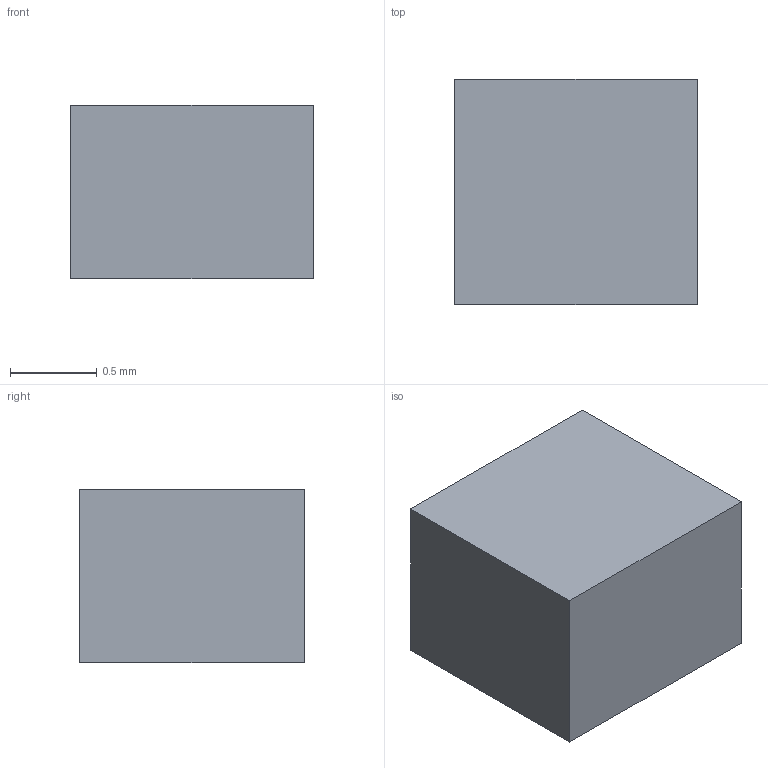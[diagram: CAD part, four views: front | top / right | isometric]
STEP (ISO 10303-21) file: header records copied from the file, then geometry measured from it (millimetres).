
FILE_DESCRIPTION(/* description */ ('STEP AP242 Edition 2','CAx-IF Rec.Pracs.---Representation and Presentation of Product Manufacturing Information (PMI)---4.0---2014-10-13','CAx-IF Rec.Pracs.---3D Tessellated Geometry---0.4---2014-09-14','2;1','CAx-IF Rec.Pracs.---User Defined Attributes---1.5---2016-08-15'),/* implementation_level */ '2;1');
FILE_NAME(/* name */ 'Drone Layout - Surface 180',/* time_stamp */ '2026-10-04T22:22:52Z',/* author */ (''),/* organization */ (''),/* preprocessor_version */ 'ST-DEVELOPER v20',/* originating_system */ 'ONSHAPE BY PTC INC, 1.221',/* authorisation */ ' ');
FILE_SCHEMA (('AP242_MANAGED_MODEL_BASED_3D_ENGINEERING_MIM_LF { 1 0 10303 442 3 1 4 }'));
Length unit declared in the file: metre
Products named in the file (1): Res:1__res_2
Bounding box: 1.4 x 1.3 x 1 mm (x, y, z)
Volume: 1.8 mm3; surface area: 9 mm2
Topology: 1 solids, 1 shells, 6 faces, 12 edges, 8 vertices
Faces by surface type: plane 6
Entity records: 169 total; most frequent: CARTESIAN_POINT 27, DIRECTION 26, ORIENTED_EDGE 24, EDGE_CURVE 12, LINE 12, VECTOR 12, VERTEX_POINT 8, AXIS2_PLACEMENT_3D 7
